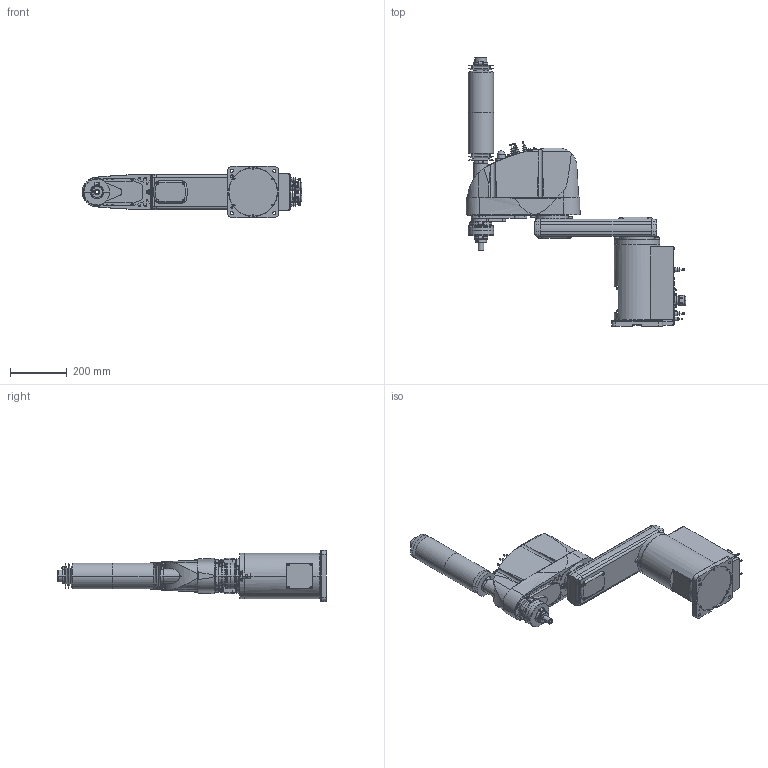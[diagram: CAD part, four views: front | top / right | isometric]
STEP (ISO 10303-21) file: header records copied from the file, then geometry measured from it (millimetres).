
FILE_DESCRIPTION( ( '' ), '1' );
FILE_NAME( '//expscmdclustefs.cadenas.external/client_exchange/iodir/jobs/output/wkb51534863_no0/STEP/G6_553D_2_03.stp', '2012-11-23T09:09:49', ( '' ), ( '' ), ' ', ' ', ' ' );
FILE_SCHEMA( ( 'CONFIG_CONTROL_DESIGN' ) );
Length unit declared in the file: millimetre
Products named in the file (8): 1; 2; 3; 4; 5; 6; 7; 8
Bounding box: 774 x 945.5 x 180 mm (x, y, z)
Volume: 22497710.5 mm3; surface area: 1153725.4 mm2
Topology: 8 solids, 8 shells, 1811 faces, 4351 edges, 2767 vertices
Faces by surface type: plane 860, cylinder 628, cone 282, torus 40, sphere 1
Entity records: 56340 total; most frequent: CARTESIAN_POINT 12922, DIRECTION 9320, ORIENTED_EDGE 8642, EDGE_CURVE 4321, AXIS2_PLACEMENT_3D 3399, VERTEX_POINT 2767, LINE 2522, VECTOR 2522
